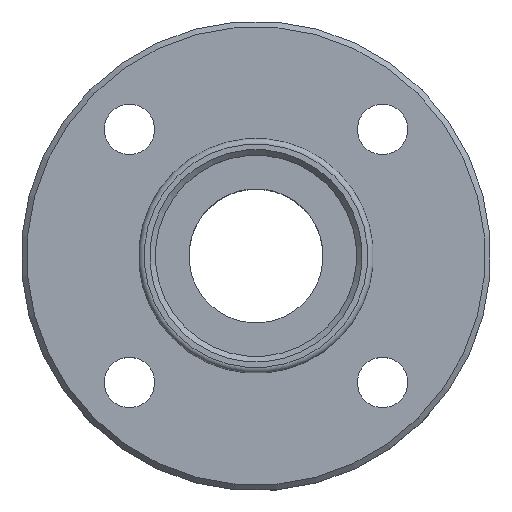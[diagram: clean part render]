
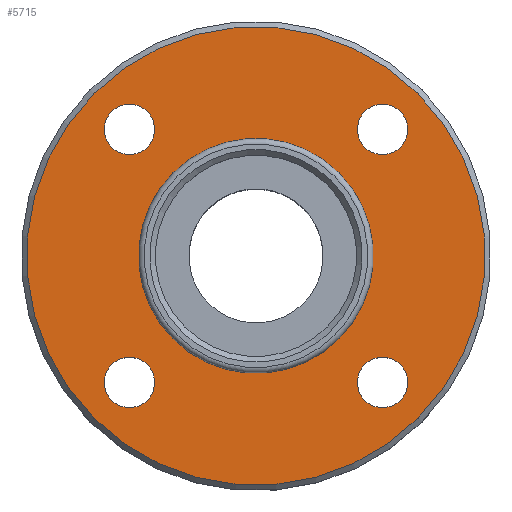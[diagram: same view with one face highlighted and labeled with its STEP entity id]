
A CAD part, top view. The second image highlights one B-rep face of the part: STEP entity #5715.
In plain terms, the highlighted planar face has unit normal (0, 0, 1).
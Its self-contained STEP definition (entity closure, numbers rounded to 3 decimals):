
#126=CIRCLE('',#6086,10.5);
#135=CIRCLE('',#6100,20.5);
#136=CIRCLE('',#6101,2.25);
#137=CIRCLE('',#6102,2.25);
#138=CIRCLE('',#6103,2.25);
#139=CIRCLE('',#6104,2.25);
#538=ORIENTED_EDGE('',*,*,#2175,.T.);
#539=ORIENTED_EDGE('',*,*,#2176,.F.);
#540=ORIENTED_EDGE('',*,*,#2177,.F.);
#541=ORIENTED_EDGE('',*,*,#2178,.F.);
#542=ORIENTED_EDGE('',*,*,#2179,.F.);
#543=ORIENTED_EDGE('',*,*,#2166,.T.);
#2166=EDGE_CURVE('',#2985,#2985,#126,.F.);
#2175=EDGE_CURVE('',#2994,#2994,#135,.T.);
#2176=EDGE_CURVE('',#2995,#2995,#136,.T.);
#2177=EDGE_CURVE('',#2996,#2996,#137,.T.);
#2178=EDGE_CURVE('',#2997,#2997,#138,.T.);
#2179=EDGE_CURVE('',#2998,#2998,#139,.T.);
#2985=VERTEX_POINT('',#9082);
#2994=VERTEX_POINT('',#9105);
#2995=VERTEX_POINT('',#9107);
#2996=VERTEX_POINT('',#9109);
#2997=VERTEX_POINT('',#9111);
#2998=VERTEX_POINT('',#9113);
#4664=EDGE_LOOP('',(#538));
#4665=EDGE_LOOP('',(#539));
#4666=EDGE_LOOP('',(#540));
#4667=EDGE_LOOP('',(#541));
#4668=EDGE_LOOP('',(#542));
#4669=EDGE_LOOP('',(#543));
#5089=FACE_BOUND('',#4664,.T.);
#5090=FACE_BOUND('',#4665,.T.);
#5091=FACE_BOUND('',#4666,.T.);
#5092=FACE_BOUND('',#4667,.T.);
#5093=FACE_BOUND('',#4668,.T.);
#5094=FACE_BOUND('',#4669,.T.);
#5453=PLANE('',#6099);
#5715=ADVANCED_FACE('',(#5089,#5090,#5091,#5092,#5093,#5094),#5453,.T.);
#6086=AXIS2_PLACEMENT_3D('',#9081,#6632,#6633);
#6099=AXIS2_PLACEMENT_3D('',#9103,#6658,#6659);
#6100=AXIS2_PLACEMENT_3D('',#9104,#6660,#6661);
#6101=AXIS2_PLACEMENT_3D('',#9106,#6662,#6663);
#6102=AXIS2_PLACEMENT_3D('',#9108,#6664,#6665);
#6103=AXIS2_PLACEMENT_3D('',#9110,#6666,#6667);
#6104=AXIS2_PLACEMENT_3D('',#9112,#6668,#6669);
#6632=DIRECTION('',(0.,0.,1.));
#6633=DIRECTION('',(0.707,-0.707,0.));
#6658=DIRECTION('',(0.,0.,1.));
#6659=DIRECTION('',(0.707,-0.707,0.));
#6660=DIRECTION('',(0.,0.,1.));
#6661=DIRECTION('',(0.707,-0.707,0.));
#6662=DIRECTION('',(0.,0.,1.));
#6663=DIRECTION('',(0.707,-0.707,0.));
#6664=DIRECTION('',(0.,0.,1.));
#6665=DIRECTION('',(0.707,-0.707,0.));
#6666=DIRECTION('',(0.,0.,1.));
#6667=DIRECTION('',(0.707,-0.707,0.));
#6668=DIRECTION('',(0.,0.,1.));
#6669=DIRECTION('',(0.707,-0.707,0.));
#9081=CARTESIAN_POINT('',(0.,0.,0.));
#9082=CARTESIAN_POINT('',(7.425,-7.425,0.));
#9103=CARTESIAN_POINT('',(0.,0.,0.));
#9104=CARTESIAN_POINT('',(0.,0.,0.));
#9105=CARTESIAN_POINT('',(14.496,-14.496,0.));
#9106=CARTESIAN_POINT('',(11.314,11.314,0.));
#9107=CARTESIAN_POINT('',(12.905,9.723,0.));
#9108=CARTESIAN_POINT('',(-11.314,11.314,0.));
#9109=CARTESIAN_POINT('',(-9.723,9.723,0.));
#9110=CARTESIAN_POINT('',(-11.314,-11.314,0.));
#9111=CARTESIAN_POINT('',(-9.723,-12.905,0.));
#9112=CARTESIAN_POINT('',(11.314,-11.314,0.));
#9113=CARTESIAN_POINT('',(12.905,-12.905,0.));
